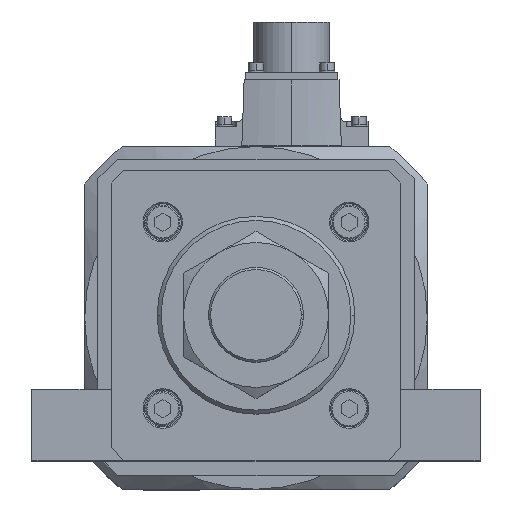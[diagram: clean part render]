
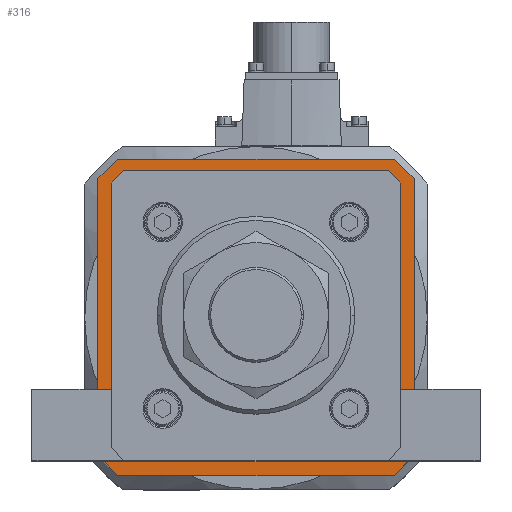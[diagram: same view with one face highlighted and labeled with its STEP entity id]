
A CAD part, top view. The second image highlights one B-rep face of the part: STEP entity #316.
In plain terms, the highlighted planar face has unit normal (0, 0, 1).
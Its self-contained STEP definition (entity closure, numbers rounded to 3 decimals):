
#316 = ADVANCED_FACE ( 'NONE', ( #2866, #18800 ), #31117, .T. ) ;
#795 = CARTESIAN_POINT ( 'NONE',  ( 60., -52.5, -119. ) ) ;
#802 = DIRECTION ( 'NONE',  ( -0.707, 0.707, 0. ) ) ;
#1050 = EDGE_CURVE ( 'NONE', #15600, #18206, #10651, .T. ) ;
#1068 = LINE ( 'NONE', #20619, #19275 ) ;
#1357 = EDGE_CURVE ( 'NONE', #18159, #11945, #6920, .T. ) ;
#1370 = ORIENTED_EDGE ( 'NONE', *, *, #26933, .F. ) ;
#1433 = CARTESIAN_POINT ( 'NONE',  ( -49.593, -53.5, -119. ) ) ;
#1442 = CARTESIAN_POINT ( 'NONE',  ( -49.593, 53.5, -119. ) ) ;
#1668 = CARTESIAN_POINT ( 'NONE',  ( 49.446, -53.646, -119. ) ) ;
#2038 = EDGE_CURVE ( 'NONE', #5608, #20336, #7316, .T. ) ;
#2144 = VECTOR ( 'NONE', #9258, 1000. ) ;
#2338 = VECTOR ( 'NONE', #25472, 1000. ) ;
#2375 = LINE ( 'NONE', #4987, #25138 ) ;
#2866 = FACE_BOUND ( 'NONE', #4241, .T. ) ;
#2976 = ORIENTED_EDGE ( 'NONE', *, *, #5578, .F. ) ;
#3321 = DIRECTION ( 'NONE',  ( 0.707, 0.707, 0. ) ) ;
#3689 = VERTEX_POINT ( 'NONE', #25619 ) ;
#3787 = DIRECTION ( 'NONE',  ( 1., 0., 0. ) ) ;
#4241 = EDGE_LOOP ( 'NONE', ( #35740, #35570, #20290, #34880, #35289, #24085, #10481, #25977 ) ) ;
#4489 = DIRECTION ( 'NONE',  ( 0.707, 0.707, 0. ) ) ;
#4987 = CARTESIAN_POINT ( 'NONE',  ( -52.5, 60., -119. ) ) ;
#5578 = EDGE_CURVE ( 'NONE', #12854, #26662, #1068, .T. ) ;
#5608 = VERTEX_POINT ( 'NONE', #23057 ) ;
#6563 = VECTOR ( 'NONE', #15330, 1000. ) ;
#6799 = EDGE_CURVE ( 'NONE', #26662, #30446, #2375, .T. ) ;
#6920 = LINE ( 'NONE', #36913, #13332 ) ;
#6932 = LINE ( 'NONE', #18113, #21025 ) ;
#7206 = EDGE_CURVE ( 'NONE', #25438, #3689, #8752, .T. ) ;
#7274 = CARTESIAN_POINT ( 'NONE',  ( -60., -52.5, -119. ) ) ;
#7316 = LINE ( 'NONE', #1668, #21887 ) ;
#7889 = VECTOR ( 'NONE', #10771, 1000. ) ;
#8023 = CARTESIAN_POINT ( 'NONE',  ( 52.5, -60., -119. ) ) ;
#8752 = LINE ( 'NONE', #37419, #2338 ) ;
#9258 = DIRECTION ( 'NONE',  ( -1., 0., 0. ) ) ;
#10033 = CARTESIAN_POINT ( 'NONE',  ( -52.5, -60., -119. ) ) ;
#10116 = CARTESIAN_POINT ( 'NONE',  ( -53.5, 49.8, -119. ) ) ;
#10481 = ORIENTED_EDGE ( 'NONE', *, *, #27121, .T. ) ;
#10651 = LINE ( 'NONE', #19660, #19697 ) ;
#10702 = EDGE_CURVE ( 'NONE', #23857, #12854, #14380, .T. ) ;
#10771 = DIRECTION ( 'NONE',  ( 0., -1., 0. ) ) ;
#11030 = CARTESIAN_POINT ( 'NONE',  ( 60., 52.5, -119. ) ) ;
#11409 = VECTOR ( 'NONE', #3787, 1000. ) ;
#11749 = EDGE_CURVE ( 'NONE', #30446, #18159, #14568, .T. ) ;
#11945 = VERTEX_POINT ( 'NONE', #31393 ) ;
#12325 = ORIENTED_EDGE ( 'NONE', *, *, #6799, .F. ) ;
#12675 = CARTESIAN_POINT ( 'NONE',  ( 52.5, -60., -119. ) ) ;
#12854 = VERTEX_POINT ( 'NONE', #7274 ) ;
#13332 = VECTOR ( 'NONE', #28010, 1000. ) ;
#13638 = ORIENTED_EDGE ( 'NONE', *, *, #34290, .F. ) ;
#13942 = DIRECTION ( 'NONE',  ( 1., 0., 0. ) ) ;
#14380 = LINE ( 'NONE', #22810, #30768 ) ;
#14512 = VERTEX_POINT ( 'NONE', #27117 ) ;
#14568 = LINE ( 'NONE', #35767, #11409 ) ;
#14603 = CARTESIAN_POINT ( 'NONE',  ( 53.5, 49.593, -119. ) ) ;
#15223 = LINE ( 'NONE', #21039, #6563 ) ;
#15330 = DIRECTION ( 'NONE',  ( 0., -1., 0. ) ) ;
#15509 = EDGE_CURVE ( 'NONE', #17844, #5608, #15223, .T. ) ;
#15600 = VERTEX_POINT ( 'NONE', #1442 ) ;
#15634 = LINE ( 'NONE', #11030, #7889 ) ;
#16622 = DIRECTION ( 'NONE',  ( 0., 0., 1. ) ) ;
#17140 = CARTESIAN_POINT ( 'NONE',  ( -60., 52.5, -119. ) ) ;
#17466 = DIRECTION ( 'NONE',  ( 0., 1., 0. ) ) ;
#17844 = VERTEX_POINT ( 'NONE', #14603 ) ;
#17870 = CARTESIAN_POINT ( 'NONE',  ( -53.5, 49.593, -119. ) ) ;
#18003 = DIRECTION ( 'NONE',  ( -0.707, -0.707, 0. ) ) ;
#18007 = LINE ( 'NONE', #10116, #32117 ) ;
#18054 = CARTESIAN_POINT ( 'NONE',  ( -49.8, -53.5, -119. ) ) ;
#18113 = CARTESIAN_POINT ( 'NONE',  ( -49.446, 53.646, -119. ) ) ;
#18159 = VERTEX_POINT ( 'NONE', #36974 ) ;
#18206 = VERTEX_POINT ( 'NONE', #29699 ) ;
#18454 = EDGE_LOOP ( 'NONE', ( #35115, #12325, #2976, #19059, #1370, #13638, #26494, #24773 ) ) ;
#18690 = LINE ( 'NONE', #28435, #33649 ) ;
#18800 = FACE_OUTER_BOUND ( 'NONE', #18454, .T. ) ;
#19059 = ORIENTED_EDGE ( 'NONE', *, *, #10702, .F. ) ;
#19275 = VECTOR ( 'NONE', #17466, 1000. ) ;
#19660 = CARTESIAN_POINT ( 'NONE',  ( 49.8, 53.5, -119. ) ) ;
#19697 = VECTOR ( 'NONE', #37132, 1000. ) ;
#20290 = ORIENTED_EDGE ( 'NONE', *, *, #15509, .T. ) ;
#20293 = EDGE_CURVE ( 'NONE', #11945, #14512, #15634, .T. ) ;
#20336 = VERTEX_POINT ( 'NONE', #37230 ) ;
#20619 = CARTESIAN_POINT ( 'NONE',  ( -60., 52.5, -119. ) ) ;
#21025 = VECTOR ( 'NONE', #3321, 1000. ) ;
#21039 = CARTESIAN_POINT ( 'NONE',  ( 53.5, -49.8, -119. ) ) ;
#21191 = LINE ( 'NONE', #12675, #36708 ) ;
#21585 = EDGE_CURVE ( 'NONE', #34185, #15600, #6932, .T. ) ;
#21887 = VECTOR ( 'NONE', #37050, 1000. ) ;
#22810 = CARTESIAN_POINT ( 'NONE',  ( -52.5, -60., -119. ) ) ;
#23053 = DIRECTION ( 'NONE',  ( 0.707, -0.707, 0. ) ) ;
#23057 = CARTESIAN_POINT ( 'NONE',  ( 53.5, -49.593, -119. ) ) ;
#23483 = VERTEX_POINT ( 'NONE', #8023 ) ;
#23857 = VERTEX_POINT ( 'NONE', #10033 ) ;
#24085 = ORIENTED_EDGE ( 'NONE', *, *, #7206, .T. ) ;
#24761 = EDGE_CURVE ( 'NONE', #20336, #25438, #25383, .T. ) ;
#24773 = ORIENTED_EDGE ( 'NONE', *, *, #1357, .F. ) ;
#25138 = VECTOR ( 'NONE', #4489, 1000. ) ;
#25383 = LINE ( 'NONE', #18054, #2144 ) ;
#25438 = VERTEX_POINT ( 'NONE', #1433 ) ;
#25472 = DIRECTION ( 'NONE',  ( -0.707, 0.707, 0. ) ) ;
#25619 = CARTESIAN_POINT ( 'NONE',  ( -53.5, -49.593, -119. ) ) ;
#25977 = ORIENTED_EDGE ( 'NONE', *, *, #21585, .T. ) ;
#26494 = ORIENTED_EDGE ( 'NONE', *, *, #20293, .F. ) ;
#26662 = VERTEX_POINT ( 'NONE', #17140 ) ;
#26933 = EDGE_CURVE ( 'NONE', #23483, #23857, #21191, .T. ) ;
#27117 = CARTESIAN_POINT ( 'NONE',  ( 60., -52.5, -119. ) ) ;
#27121 = EDGE_CURVE ( 'NONE', #3689, #34185, #18007, .T. ) ;
#27425 = LINE ( 'NONE', #795, #33832 ) ;
#27797 = DIRECTION ( 'NONE',  ( -1., 0., 0. ) ) ;
#28010 = DIRECTION ( 'NONE',  ( 0.707, -0.707, 0. ) ) ;
#28435 = CARTESIAN_POINT ( 'NONE',  ( 53.646, 49.446, -119. ) ) ;
#28446 = AXIS2_PLACEMENT_3D ( 'NONE', #34073, #16622, #13942 ) ;
#29699 = CARTESIAN_POINT ( 'NONE',  ( 49.593, 53.5, -119. ) ) ;
#30446 = VERTEX_POINT ( 'NONE', #31426 ) ;
#30768 = VECTOR ( 'NONE', #802, 1000. ) ;
#31117 = PLANE ( 'NONE',  #28446 ) ;
#31393 = CARTESIAN_POINT ( 'NONE',  ( 60., 52.5, -119. ) ) ;
#31426 = CARTESIAN_POINT ( 'NONE',  ( -52.5, 60., -119. ) ) ;
#31785 = EDGE_CURVE ( 'NONE', #18206, #17844, #18690, .T. ) ;
#32117 = VECTOR ( 'NONE', #33275, 1000. ) ;
#33275 = DIRECTION ( 'NONE',  ( 0., 1., 0. ) ) ;
#33649 = VECTOR ( 'NONE', #23053, 1000. ) ;
#33832 = VECTOR ( 'NONE', #18003, 1000. ) ;
#34073 = CARTESIAN_POINT ( 'NONE',  ( 0., 0., -119. ) ) ;
#34185 = VERTEX_POINT ( 'NONE', #17870 ) ;
#34290 = EDGE_CURVE ( 'NONE', #14512, #23483, #27425, .T. ) ;
#34880 = ORIENTED_EDGE ( 'NONE', *, *, #2038, .T. ) ;
#35115 = ORIENTED_EDGE ( 'NONE', *, *, #11749, .F. ) ;
#35289 = ORIENTED_EDGE ( 'NONE', *, *, #24761, .T. ) ;
#35570 = ORIENTED_EDGE ( 'NONE', *, *, #31785, .T. ) ;
#35740 = ORIENTED_EDGE ( 'NONE', *, *, #1050, .T. ) ;
#35767 = CARTESIAN_POINT ( 'NONE',  ( 52.5, 60., -119. ) ) ;
#36708 = VECTOR ( 'NONE', #27797, 1000. ) ;
#36913 = CARTESIAN_POINT ( 'NONE',  ( 60., 52.5, -119. ) ) ;
#36974 = CARTESIAN_POINT ( 'NONE',  ( 52.5, 60., -119. ) ) ;
#37050 = DIRECTION ( 'NONE',  ( -0.707, -0.707, 0. ) ) ;
#37132 = DIRECTION ( 'NONE',  ( 1., 0., 0. ) ) ;
#37230 = CARTESIAN_POINT ( 'NONE',  ( 49.593, -53.5, -119. ) ) ;
#37419 = CARTESIAN_POINT ( 'NONE',  ( -53.646, -49.446, -119. ) ) ;
